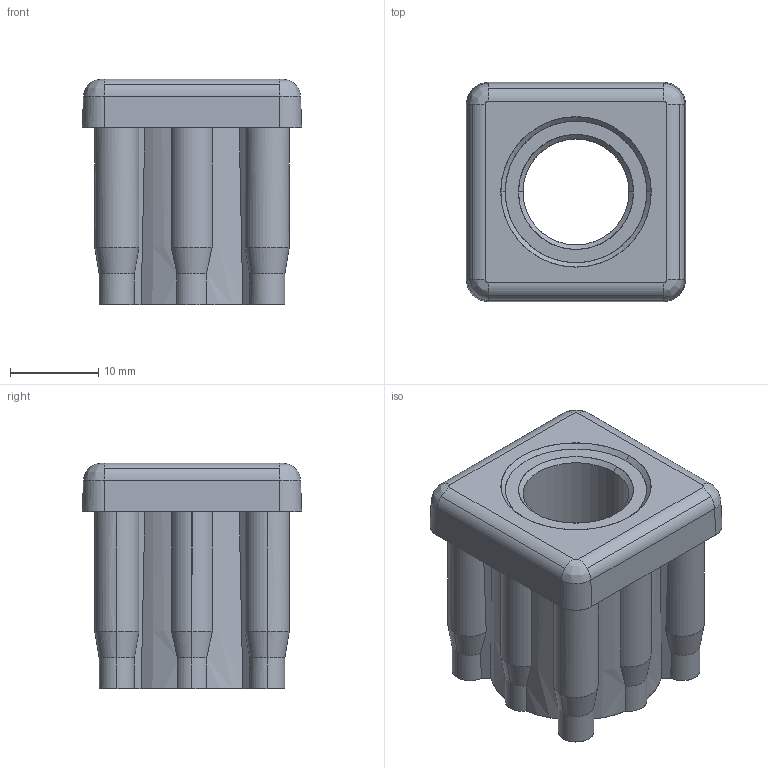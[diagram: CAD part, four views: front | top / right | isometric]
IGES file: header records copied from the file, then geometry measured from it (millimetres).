
Start section: SolidWorks IGES file using analytic representation for surfaces
Global section: file name: Y:\Tecnodin, S.L\PLAPP-Dirección - Documentos\General\Models CAD\Actiby\42006825212.IGS; native system: SolidWorks 2018; preprocessor: SolidWorks 2018; author: GerPro; date: 200225.183234; units: metre
Bounding box: 24.8 x 24.8 x 25.5 mm (x, y, z)
Surface area: 5548.9 mm2 (no closed solid volume)
Topology: 0 solids, 0 shells, 119 faces, 1200 edges, 1200 vertices
Faces by surface type: revolution 92, bspline 27
